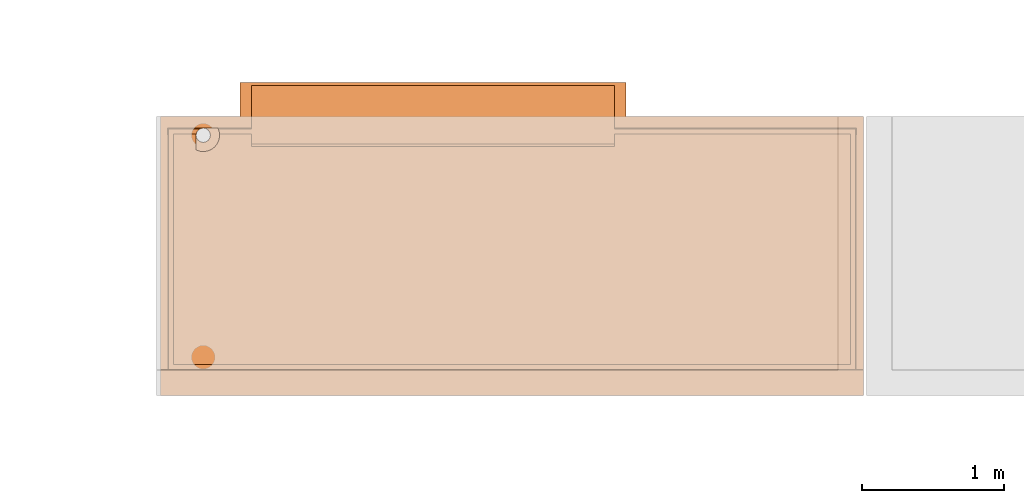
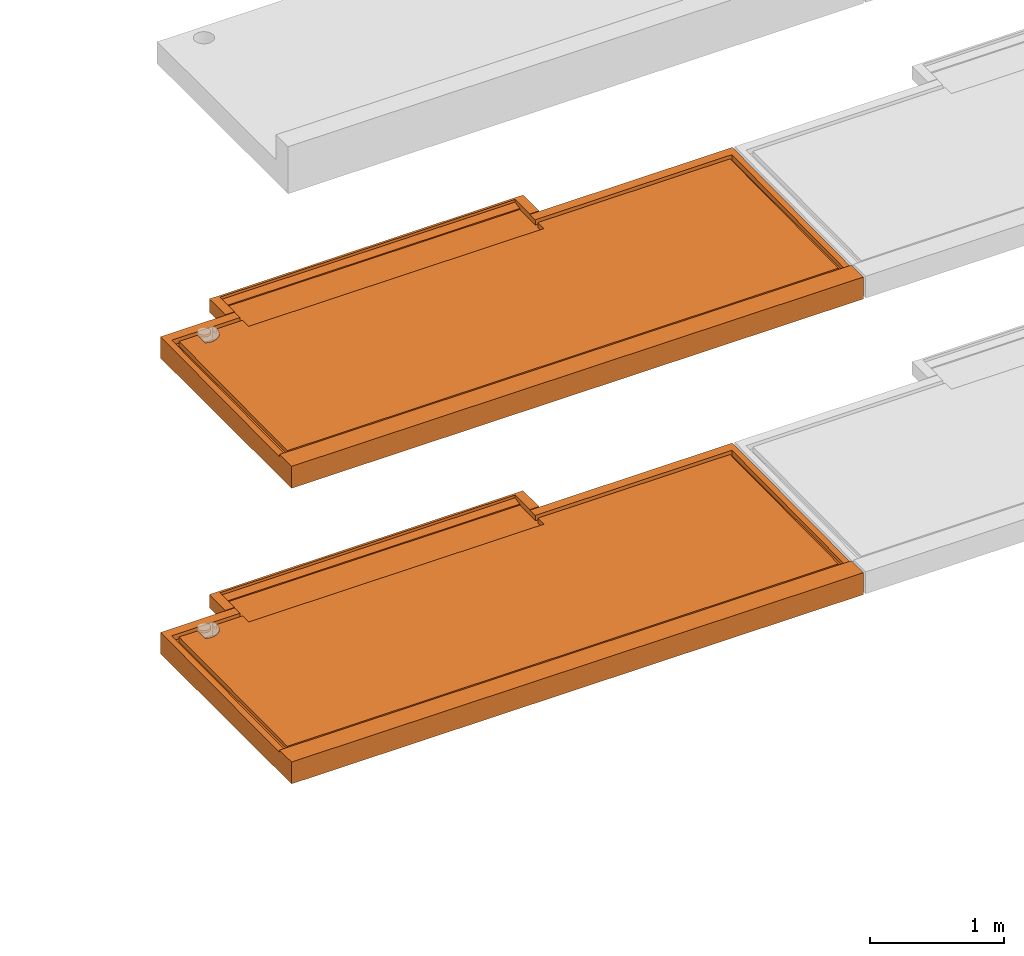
# One storey, part 6 of 31: 2 proxies, 2 elements without a shape of their own.
"""IFC2X3 building model written with IfcOpenShell, lengths in centimetres."""

from ifc_helpers import new_model, entity, si_unit, converted_unit, derived_unit, direction, frame, origin, place, context, subcontext, project, spatial, faceted_brep, source, transform, mapped, material, type_object, type_shapes, element, aggregate, save


model = new_model("IFC2X3")

# Units and contexts
model_context = context("Model", 3, precision=0.001, world=origin(), true_north=direction((6.12303176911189e-17, 1.0)))
body_context = subcontext(model_context, "Body", "Model", "MODEL_VIEW")
ifc_project = project(units=[si_unit("LENGTHUNIT", "METRE", prefix="CENTI"), si_unit("AREAUNIT", "SQUARE_METRE"), si_unit("VOLUMEUNIT", "CUBIC_METRE"), converted_unit("PLANEANGLEUNIT", "DEGREE", entity("IfcRatioMeasure", 0.0174532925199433), si_unit("PLANEANGLEUNIT", "RADIAN"), dimensions=[0, 0, 0, 0, 0, 0, 0]), si_unit("MASSUNIT", "GRAM", prefix="KILO"), derived_unit("MASSDENSITYUNIT", [(si_unit("MASSUNIT", "GRAM", prefix="KILO"), 1), (si_unit("LENGTHUNIT", "METRE"), -3)]), si_unit("TIMEUNIT", "SECOND"), si_unit("FREQUENCYUNIT", "HERTZ"), si_unit("THERMODYNAMICTEMPERATUREUNIT", "DEGREE_CELSIUS"), derived_unit("THERMALTRANSMITTANCEUNIT", [(si_unit("MASSUNIT", "GRAM", prefix="KILO"), 1), (si_unit("THERMODYNAMICTEMPERATUREUNIT", "KELVIN"), -1), (si_unit("TIMEUNIT", "SECOND"), -3)]), derived_unit("VOLUMETRICFLOWRATEUNIT", [(si_unit("LENGTHUNIT", "METRE"), 3), (si_unit("TIMEUNIT", "SECOND"), -1)]), si_unit("ELECTRICCURRENTUNIT", "AMPERE"), si_unit("ELECTRICVOLTAGEUNIT", "VOLT"), si_unit("POWERUNIT", "WATT"), si_unit("FORCEUNIT", "NEWTON"), si_unit("ILLUMINANCEUNIT", "LUX"), si_unit("LUMINOUSFLUXUNIT", "LUMEN"), si_unit("LUMINOUSINTENSITYUNIT", "CANDELA"), derived_unit("USERDEFINED", [(si_unit("MASSUNIT", "GRAM", prefix="KILO"), -1), (si_unit("LENGTHUNIT", "METRE"), -2), (si_unit("TIMEUNIT", "SECOND"), 3), (si_unit("LUMINOUSFLUXUNIT", "LUMEN"), 1)]), derived_unit("LINEARVELOCITYUNIT", [(si_unit("LENGTHUNIT", "METRE"), 1), (si_unit("TIMEUNIT", "SECOND"), -1)]), si_unit("PRESSUREUNIT", "PASCAL"), derived_unit("USERDEFINED", [(si_unit("LENGTHUNIT", "METRE"), -2), (si_unit("MASSUNIT", "GRAM", prefix="KILO"), 1), (si_unit("TIMEUNIT", "SECOND"), -2)])], contexts=[model_context])

# Site, building, storey
site_placement = place(None, origin())
site = spatial("IfcSite", under=ifc_project, at=site_placement, Name="Default", CompositionType="ELEMENT")
building_placement = place(site_placement, origin())
building = spatial("IfcBuilding", under=site, at=building_placement, Name="CAGE 03", CompositionType="ELEMENT")
storey_placement = place(building_placement, frame((0.0, 0.0, -400.0)))
storey = spatial("IfcBuildingStorey", under=building, at=storey_placement, Name="±0.00", CompositionType="ELEMENT", Elevation=-400.0)

# Assembly, proxy
assembly_1_placement = place(storey_placement, origin())
assembly_1 = element("IfcElementAssembly", 1, at=assembly_1_placement, inside=storey, Name="Assemblage Modèles génériques:BALCON TYPE 01", ObjectType="Assemblage Modèles génériques:BALCON TYPE 01", AssemblyPlace="NOTDEFINED", PredefinedType="USERDEFINED")
ifc_material = material(Name="Béton, panneaux préfa 30/37")
building_element_proxy_type_1 = type_object("IfcBuildingElementProxyType", Name="balcon préfa type 01", PredefinedType="NOTDEFINED", material=ifc_material)
shared_shape_1 = source(origin(), body_context, "Body", "Brep", [
    faceted_brep([(5.4374433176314, 187.562556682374, 15.0), (5.43744331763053, 18.437443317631, 15.0), (488.562556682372, 18.4374433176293, 15.0), (488.562556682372, 187.562556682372, 15.0), (319.0, 187.562556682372, 15.0), (319.0, 211.0, 15.0), (64.0, 211.0, 15.0), (64.0, 187.562556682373, 15.0), (40.5561866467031, 187.562556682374, 15.0), (41.1495236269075, 185.817467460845, 15.0), (41.4564392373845, 184.0, 15.0), (64.0, 184.0, 15.0), (64.0, 177.0, 15.0), (319.0, 177.0, 15.0), (319.0, 184.0, 15.0), (485.0, 184.0, 15.0), (485.0, 22.0, 15.0), (9.0, 22.0, 15.0), (9.0, 184.0, 15.0), (25.1010205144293, 184.0, 15.0), (25.4727634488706, 185.122293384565, 15.0), (26.0976215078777, 186.125930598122, 15.0), (26.9406592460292, 186.954798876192, 15.0), (27.954742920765, 187.562556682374, 15.0), (56.0, 196.0, 20.0), (64.0, 196.0, 20.0), (64.0, 218.0, 20.0), (319.0, 218.0, 20.0), (319.0, 196.0, 20.0), (327.0, 196.0, 20.0), (327.0, 212.0, 20.0), (327.0, 220.0, 20.0), (56.0, 220.0, 20.0), (56.0, 212.0, 20.0), (494.0, 0.0, 20.0), (494.0, 18.0, 20.0), (0.0, 18.0, 20.0), (0.0, 0.0, 20.0), (56.0, 220.0, 8.0), (327.0, 220.0, 8.0), (4.0, 194.0, 0.0), (26.4644660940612, 186.535533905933, 0.0), (25.669872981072, 185.5, 0.0), (4.0, 196.0, 0.0), (25.170370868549, 184.294095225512, 0.0), (25.0, 183.0, 0.0), (25.1703708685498, 181.705904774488, 0.0), (25.6698729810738, 180.500000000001, 0.0), (26.4644660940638, 179.464466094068, 0.0), (4.0, 4.0, 0.0), (27.4999999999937, 187.330127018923, 0.0), (28.705904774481, 187.829629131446, 0.0), (30.0, 188.0, 0.0), (31.2940952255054, 187.829629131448, 0.0), (490.0, 196.0, 0.0), (32.4999999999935, 187.330127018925, 0.0), (33.535533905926, 186.535533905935, 0.0), (34.3301270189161, 185.500000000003, 0.0), (34.8296291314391, 184.294095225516, 0.0), (35.0, 183.0, 0.0), (490.0, 194.0, 0.0), (34.8296291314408, 181.705904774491, 0.0), (490.0, 4.0, 0.0), (34.3301270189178, 180.500000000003, 0.0), (27.4999999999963, 178.669872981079, 0.0), (28.7059047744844, 178.170370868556, 0.0), (30.0, 178.0, 0.0), (31.2940952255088, 178.170370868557, 0.0), (32.4999999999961, 178.669872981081, 0.0), (33.5355339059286, 179.464466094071, 0.0), (0.0, 196.0, 0.0), (3.0, 196.0, 0.0), (3.0, 194.0, 0.0), (3.0, 3.0, 0.0), (491.0, 3.0, 0.0), (491.0, 194.0, 0.0), (491.0, 196.0, 0.0), (494.0, 196.0, 0.0), (494.0, 194.0, 0.0), (494.0, 0.0, 0.0), (0.0, 0.0, 0.0), (0.0, 194.0, 0.0), (5.04116008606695, 187.958839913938, 19.5295380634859), (29.3597604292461, 187.958839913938, 19.5295380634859), (29.6792193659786, 187.989699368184, 19.529846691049), (30.0, 188.0, 19.5299497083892), (40.3561575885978, 188.0, 19.5299497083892), (40.3660638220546, 187.979429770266, 19.5297439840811), (40.3759291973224, 187.958839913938, 19.5295380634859), (64.0, 187.958839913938, 19.5295380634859), (64.0, 194.0, 19.5899561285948), (64.0, 196.0, 19.6099582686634), (56.0, 196.0, 19.6099582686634), (0.0, 196.0, 19.6099582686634), (0.0, 194.0, 19.5899561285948), (0.0, 18.1897047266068, 17.83166505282), (5.18970472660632, 18.1897047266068, 17.83166505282), (9.0, 22.0, 17.8697720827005), (485.0, 22.0, 17.8697720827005), (485.0, 184.0, 19.4899454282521), (319.0, 184.0, 19.4899454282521), (319.0, 175.001802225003, 19.3999538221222), (64.0, 175.001802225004, 19.3999538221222), (64.0, 184.0, 19.4899454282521), (41.4564392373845, 184.0, 19.4899454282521), (41.375773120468, 181.314240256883, 19.463084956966), (40.6740790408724, 178.72050976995, 19.4371448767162), (39.3896639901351, 176.360405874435, 19.413541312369), (37.5926469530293, 174.362771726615, 19.3935628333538), (35.3811309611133, 172.836662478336, 19.3783001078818), (32.875847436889, 171.865391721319, 19.3685863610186), (30.2135652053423, 171.501983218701, 19.3649518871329), (27.53962398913, 171.766276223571, 19.3675950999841), (25.0, 172.643842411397, 19.3763717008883), (25.0, 183.0, 19.4799443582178), (25.0253192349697, 183.502544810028, 19.4849703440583), (25.1010205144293, 184.0, 19.4899454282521), (9.0, 184.0, 19.4899454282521), (319.0, 194.0, 19.5899561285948), (319.0, 187.958839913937, 19.5295380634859), (488.958839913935, 187.958839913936, 19.5295380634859), (488.810295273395, 18.189704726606, 17.83166505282), (494.0, 18.189704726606, 17.83166505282), (494.0, 194.0, 19.5899561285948), (494.0, 196.0, 19.6099582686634), (327.0, 196.0, 19.6099582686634), (319.0, 196.0, 19.6099582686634), (319.0, 211.0, 15.9713250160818), (319.0, 218.0, 17.4999999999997), (319.0, 177.0, 16.9198129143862), (319.0, 175.026803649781, 16.9000788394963), (28.2941522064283, 187.700008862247, 16.5710856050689), (28.6427110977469, 187.812251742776, 17.8540276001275), (28.9985500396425, 187.898683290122, 18.8419447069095), (40.3874297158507, 187.93417884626, 19.2476607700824), (40.3989302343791, 187.909517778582, 18.965783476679), (40.421931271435, 187.860195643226, 18.4020288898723), (40.4679333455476, 187.761551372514, 17.2745197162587), (40.5120599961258, 187.662054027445, 16.1372598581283), (3.0, 3.0, 1.0), (491.0, 3.0, 1.0), (4.0, 4.0, 1.46630765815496), (490.0, 4.0, 1.46630765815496), (64.0, 218.0, 17.4999999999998), (56.0, 212.0, 8.0), (327.0, 212.0, 8.0), (327.0, 196.0, 8.0), (56.0, 196.0, 8.0), (491.0, 196.0, 1.0), (490.0, 196.0, 1.46630765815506), (4.0, 196.0, 1.46630765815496), (3.0, 196.0, 1.0), (64.0, 175.026803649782, 16.9000788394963), (64.0, 177.0, 16.9198129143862), (64.0, 211.0, 15.9713250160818), (491.0, 194.0, 1.0), (490.0, 194.0, 1.46630765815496), (3.0, 194.0, 1.0), (4.0, 194.0, 1.46630765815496), (27.6842282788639, 171.735578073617, 7.69999999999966), (30.5090668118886, 171.511272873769, 7.69999999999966), (33.3029955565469, 171.984546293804, 7.69999999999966), (35.8963712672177, 173.126661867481, 7.69999999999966), (38.1317279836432, 174.868272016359, 7.69999999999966), (39.8733381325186, 177.103628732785, 7.69999999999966), (41.0154537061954, 179.697004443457, 7.69999999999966), (41.4887271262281, 182.490933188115, 7.69999999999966), (41.2644219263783, 185.315771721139, 7.69999999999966), (40.3561575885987, 188.0, 7.69999999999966), (30.0, 188.0, 7.69999999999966), (31.2940952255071, 187.829629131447, 7.69999999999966), (32.4999999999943, 187.330127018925, 7.69999999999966), (33.5355339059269, 186.535533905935, 7.69999999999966), (34.3301270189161, 185.500000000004, 7.69999999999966), (34.82962913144, 184.294095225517, 7.69999999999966), (35.0, 183.0, 7.69999999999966), (34.8296291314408, 181.705904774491, 7.69999999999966), (34.3301270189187, 180.500000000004, 7.69999999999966), (33.5355339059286, 179.464466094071, 7.69999999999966), (32.4999999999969, 178.669872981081, 7.69999999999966), (31.2940952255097, 178.170370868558, 7.69999999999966), (30.0, 178.0, 7.69999999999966), (28.7059047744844, 178.170370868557, 7.69999999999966), (27.4999999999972, 178.669872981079, 7.69999999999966), (26.4644660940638, 179.464466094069, 7.69999999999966), (25.6698729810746, 180.500000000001, 7.69999999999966), (25.1703708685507, 181.705904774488, 7.69999999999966), (25.0, 183.0, 7.69999999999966), (25.0, 172.643842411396, 7.69999999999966), (40.3561575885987, 188.0, 15.0937185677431), (40.3561575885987, 188.0, 16.5724622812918), (40.3561575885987, 188.0, 18.0512059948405), (40.3561575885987, 188.0, 13.6149748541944), (40.3561575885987, 188.0, 18.7905778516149), (40.3561575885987, 188.0, 19.1602637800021)], [[[0, 1, 2, 3, 4, 5, 6, 7, 8, 9, 10, 11, 12, 13, 14, 15, 16, 17, 18, 19, 20, 21, 22, 23]], [[24, 25, 26, 27, 28, 29, 30, 31, 32, 33]], [[34, 35, 36, 37]], [[38, 32, 31, 39]], [[40, 41, 42]], [[41, 40, 43]], [[40, 42, 44]], [[44, 45, 40]], [[46, 40, 45]], [[40, 46, 47]], [[47, 48, 40]], [[48, 49, 40]], [[50, 41, 43]], [[51, 50, 43]], [[52, 51, 43]], [[43, 53, 52]], [[53, 43, 54]], [[55, 53, 54]], [[56, 55, 54]], [[54, 57, 56]], [[58, 57, 54]], [[58, 54, 59]], [[54, 60, 59]], [[59, 60, 61]], [[60, 62, 61]], [[62, 49, 63]], [[62, 63, 61]], [[48, 64, 49]], [[64, 65, 49]], [[49, 65, 66]], [[67, 49, 66]], [[68, 49, 67]], [[49, 68, 69]], [[63, 49, 69]], [[70, 71, 72, 73, 74, 75, 76, 77, 78, 79, 80, 81]], [[37, 80, 79, 34]], [[82, 83, 84, 85, 86, 87, 88, 89, 90, 91, 92, 93, 94, 95, 96]], [[97, 98, 99, 100, 101, 102, 103, 104, 105, 106, 107, 108, 109, 110, 111, 112, 113, 114, 115, 116, 117]], [[118, 119, 120, 121, 122, 123, 124, 125, 126]], [[78, 77, 124, 123, 122, 35, 34, 79]], [[121, 2, 1, 96, 95, 36, 35, 122]], [[127, 5, 4, 119, 118, 126, 28, 27, 128]], [[100, 14, 13, 129, 130, 101]], [[3, 120, 119, 4]], [[23, 131, 132, 133, 83, 82, 0]], [[89, 88, 134, 135, 136, 137, 138, 8, 7]], [[98, 16, 15, 99]], [[121, 120, 3, 2]], [[139, 140, 74, 73]], [[141, 142, 140, 139]], [[141, 49, 62, 142]], [[26, 143, 128, 27]], [[144, 38, 39, 145, 146, 147]], [[93, 92, 147, 146, 125, 124, 77, 76, 148, 149, 54, 43, 150, 151, 71, 70]], [[152, 102, 101, 130]], [[153, 152, 130, 129]], [[12, 153, 129, 13]], [[80, 37, 36, 95, 94, 93, 70, 81]], [[143, 26, 25, 91, 90, 89, 7, 6, 154]], [[103, 102, 152, 153, 12, 11]], [[15, 14, 100, 99]], [[19, 18, 117, 116]], [[103, 11, 10, 104]], [[17, 16, 98, 97]], [[143, 154, 127, 128]], [[154, 6, 5, 127]], [[29, 28, 126, 125]], [[25, 24, 92, 91]], [[33, 32, 38, 144, 147, 92, 24]], [[75, 74, 140, 155, 148, 76]], [[156, 142, 62, 60, 54, 149]], [[155, 140, 142, 156, 149, 148]], [[73, 72, 71, 151, 157, 139]], [[40, 49, 141, 158, 150, 43]], [[141, 139, 157, 151, 150, 158]], [[18, 17, 97, 117]], [[0, 82, 96, 1]], [[30, 29, 125, 146, 145, 39, 31]], [[159, 160, 161, 162, 163, 164, 165, 166, 167, 168, 169, 170, 171, 172, 173, 174, 175, 176, 177, 178, 179, 180, 181, 182, 183, 184, 185, 186, 187, 188]], [[187, 114, 113, 188]], [[159, 188, 112]], [[159, 111, 160]], [[108, 163, 162]], [[162, 161, 109]], [[161, 160, 110]], [[164, 163, 107]], [[8, 138, 189]], [[188, 113, 112]], [[159, 112, 111]], [[189, 138, 190]], [[191, 190, 137]], [[161, 110, 109]], [[138, 137, 190]], [[163, 108, 107]], [[108, 162, 109]], [[189, 192, 8]], [[110, 160, 111]], [[88, 87, 134]], [[107, 106, 164]], [[166, 165, 105]], [[167, 166, 10]], [[10, 166, 105]], [[9, 168, 167]], [[193, 191, 136]], [[192, 168, 9]], [[192, 9, 8]], [[10, 9, 167]], [[194, 134, 87]], [[105, 165, 106]], [[104, 10, 105]], [[87, 86, 194]], [[136, 191, 137]], [[136, 135, 193]], [[135, 134, 194]], [[194, 193, 135]], [[164, 106, 165]], [[85, 169, 168, 192, 189, 190, 191, 193, 194, 86]], [[47, 46, 186, 185]], [[47, 185, 184, 48]], [[65, 64, 183, 182]], [[184, 183, 64, 48]], [[66, 65, 182, 181]], [[45, 187, 186, 46]], [[68, 67, 180, 179]], [[68, 179, 178, 69]], [[61, 63, 177, 176]], [[178, 177, 63, 69]], [[59, 61, 176, 175]], [[181, 180, 67, 66]], [[58, 174, 173, 57]], [[59, 175, 174, 58]], [[171, 170, 53, 55]], [[55, 56, 172, 171]], [[56, 57, 173, 172]], [[52, 53, 170, 169]], [[85, 84, 169]], [[83, 169, 84]], [[133, 169, 83]], [[51, 52, 169]], [[23, 50, 51]], [[50, 23, 22]], [[22, 41, 50]], [[131, 23, 51]], [[187, 45, 44]], [[42, 41, 21]], [[42, 20, 44]], [[22, 21, 41]], [[44, 19, 187]], [[132, 51, 133]], [[131, 51, 132]], [[42, 21, 20]], [[116, 115, 19]], [[115, 187, 19]], [[115, 114, 187]], [[20, 19, 44]], [[169, 133, 51]]]),
])
type_shapes(building_element_proxy_type_1, [shared_shape_1])
proxy_1_placement = place(assembly_1_placement, frame((4879.36582014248, 4474.6606660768, 990.0)))
proxy_1 = element("IfcBuildingElementProxy", 2, at=proxy_1_placement, type_object=building_element_proxy_type_1, material=ifc_material, Name="BY_STR_Balcon_préfa_01:balcon préfa type 01", ObjectType="balcon préfa type 01", context=body_context, shape_type="MappedRepresentation", body=[
    mapped(shared_shape_1, transform((0.0, 0.0, 0.0), scale=1.0)),
])
aggregate(assembly_1, [proxy_1])

assembly_2_placement = place(storey_placement, origin())
assembly_2 = element("IfcElementAssembly", 3, at=assembly_2_placement, inside=storey, Name="Assemblage Modèles génériques:BALCON TYPE 01", ObjectType="Assemblage Modèles génériques:BALCON TYPE 01", AssemblyPlace="NOTDEFINED", PredefinedType="USERDEFINED")
building_element_proxy_type_2 = type_object("IfcBuildingElementProxyType", Name="balcon préfa type 01", PredefinedType="NOTDEFINED", material=ifc_material)
shared_shape_2 = source(origin(), body_context, "Body", "Brep", [
    faceted_brep([(5.4374433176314, 187.562556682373, 15.0), (5.43744331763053, 18.4374433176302, 15.0), (488.562556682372, 18.4374433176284, 15.0), (488.562556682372, 187.562556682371, 15.0), (319.0, 187.562556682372, 15.0), (319.0, 211.0, 15.0), (64.0, 211.0, 15.0), (64.0, 187.562556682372, 15.0), (40.5561866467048, 187.562556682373, 15.0), (41.1495236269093, 185.817467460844, 15.0), (41.4564392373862, 184.0, 15.0), (64.0, 184.0, 15.0), (64.0, 177.0, 15.0), (319.0, 177.0, 15.0), (319.0, 184.0, 15.0), (485.0, 184.0, 15.0), (485.0, 22.0, 15.0), (9.0, 22.0, 15.0), (9.0, 184.0, 15.0), (25.101020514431, 184.0, 15.0), (25.4727634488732, 185.122293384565, 15.0), (26.0976215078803, 186.125930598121, 15.0), (26.9406592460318, 186.954798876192, 15.0), (27.9547429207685, 187.562556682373, 15.0), (56.0, 196.0, 20.0), (64.0, 196.0, 20.0), (64.0, 218.0, 20.0), (319.0, 218.0, 20.0), (319.0, 196.0, 20.0), (327.0, 196.0, 20.0), (327.0, 212.0, 20.0), (327.0, 220.0, 20.0), (56.0, 220.0, 20.0), (56.0, 212.0, 20.0), (494.0, 0.0, 20.0), (494.0, 18.0, 20.0), (0.0, 18.0, 20.0), (0.0, 0.0, 20.0), (56.0, 220.0, 8.0), (327.0, 220.0, 8.0), (4.0, 196.0, 0.0), (25.6698729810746, 185.499999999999, 0.0), (25.1703708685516, 184.294095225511, 0.0), (26.4644660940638, 186.535533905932, 0.0), (25.0, 183.0, 0.0), (27.4999999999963, 187.330127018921, 0.0), (34.0, 196.0, 0.0), (25.1703708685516, 181.705904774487, 0.0), (25.6698729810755, 180.5, 0.0), (26.4644660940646, 179.464466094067, 0.0), (4.0, 4.0, 0.0), (28.7059047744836, 187.829629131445, 0.0), (30.0, 188.0, 0.0), (31.294095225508, 187.829629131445, 0.0), (32.4999999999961, 187.330127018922, 0.0), (33.5355339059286, 186.535533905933, 0.0), (34.3301270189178, 185.5, 0.0), (34.8296291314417, 184.294095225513, 0.0), (35.0, 183.0, 0.0), (454.0, 196.0, 0.0), (34.8296291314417, 181.705904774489, 0.0), (34.3301270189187, 180.500000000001, 0.0), (490.0, 4.0, 0.0), (490.0, 194.0, 0.0), (490.0, 196.0, 0.0), (27.4999999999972, 178.669872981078, 0.0), (28.7059047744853, 178.170370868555, 0.0), (30.0, 178.0, 0.0), (31.2940952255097, 178.170370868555, 0.0), (33.5355339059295, 179.464466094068, 0.0), (32.4999999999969, 178.669872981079, 0.0), (0.0, 196.0, 0.0), (3.0, 196.0, 0.0), (3.0, 3.0, 0.0), (491.0, 3.0, 0.0), (491.0, 194.0, 0.0), (491.0, 196.0, 0.0), (494.0, 196.0, 0.0), (494.0, 194.0, 0.0), (494.0, 0.0, 0.0), (0.0, 0.0, 0.0), (5.04116008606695, 187.958839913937, 19.5295380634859), (29.3597604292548, 187.958839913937, 19.5295380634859), (29.6792193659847, 187.989699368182, 19.5298466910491), (30.0, 188.0, 19.5299497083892), (40.3561575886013, 188.0, 19.5299497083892), (40.3660638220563, 187.979429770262, 19.5297439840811), (40.3759291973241, 187.958839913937, 19.5295380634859), (64.0, 187.958839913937, 19.5295380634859), (64.0, 194.0, 19.5899561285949), (64.0, 196.0, 19.6099582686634), (56.0, 196.0, 19.6099582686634), (34.0, 196.0, 19.6099582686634), (0.0, 196.0, 19.6099582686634), (0.0, 18.189704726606, 17.83166505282), (5.18970472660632, 18.189704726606, 17.83166505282), (9.0, 22.0, 17.8697720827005), (485.0, 22.0, 17.8697720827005), (485.0, 184.0, 19.4899454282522), (319.0, 184.0, 19.4899454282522), (319.0, 175.001802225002, 19.3999538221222), (64.0, 175.001802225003, 19.3999538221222), (64.0, 184.0, 19.4899454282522), (41.4564392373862, 184.0, 19.4899454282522), (41.3757731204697, 181.314240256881, 19.463084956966), (40.6740790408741, 178.720509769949, 19.4371448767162), (39.3896639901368, 176.360405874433, 19.413541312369), (37.5926469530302, 174.362771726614, 19.3935628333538), (35.3811309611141, 172.836662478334, 19.3783001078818), (32.875847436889, 171.865391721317, 19.3685863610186), (30.2135652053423, 171.501983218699, 19.3649518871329), (27.5396239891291, 171.766276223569, 19.3675950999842), (25.0, 172.643842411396, 19.3763717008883), (25.0, 183.0, 19.4799443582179), (25.0253192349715, 183.502544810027, 19.4849703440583), (25.101020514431, 184.0, 19.4899454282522), (9.0, 184.0, 19.4899454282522), (319.0, 194.0, 19.5899561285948), (319.0, 187.958839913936, 19.5295380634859), (488.958839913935, 187.958839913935, 19.5295380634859), (488.810295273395, 18.1897047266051, 17.83166505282), (494.0, 18.1897047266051, 17.83166505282), (494.0, 194.0, 19.5899561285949), (494.0, 196.0, 19.6099582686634), (454.0, 196.0, 19.6099582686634), (327.0, 196.0, 19.6099582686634), (319.0, 196.0, 19.6099582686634), (319.0, 211.0, 15.9713250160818), (319.0, 218.0, 17.4999999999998), (319.0, 177.0, 16.9198129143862), (319.0, 175.02680364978, 16.9000788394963), (28.2941522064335, 187.700008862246, 16.5710856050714), (28.6427110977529, 187.812251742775, 17.8540276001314), (28.9985500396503, 187.898683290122, 18.8419447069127), (40.3874297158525, 187.934178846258, 19.2476607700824), (40.39893023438, 187.909517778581, 18.9657834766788), (40.4219312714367, 187.860195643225, 18.4020288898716), (40.4679333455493, 187.761551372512, 17.2745197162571), (40.5120599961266, 187.662054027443, 16.1372598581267), (3.0, 3.0, 1.0), (491.0, 3.0, 1.0), (4.0, 4.0, 1.46630765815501), (490.0, 4.0, 1.46630765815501), (64.0, 218.0, 17.4999999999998), (56.0, 212.0, 8.0), (327.0, 212.0, 8.0), (327.0, 196.0, 8.0), (56.0, 196.0, 8.0), (491.0, 196.0, 1.0), (490.0, 196.0, 1.46630765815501), (4.0, 196.0, 1.46630765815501), (3.0, 196.0, 1.0), (64.0, 175.026803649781, 16.9000788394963), (64.0, 177.0, 16.9198129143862), (64.0, 211.0, 15.9713250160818), (491.0, 194.0, 1.0), (490.0, 194.0, 1.46630765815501), (27.6842282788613, 171.735578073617, 7.69999999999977), (30.5090668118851, 171.511272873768, 7.69999999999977), (33.3029955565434, 171.984546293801, 7.69999999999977), (35.8963712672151, 173.126661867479, 7.69999999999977), (38.1317279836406, 174.868272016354, 7.69999999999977), (39.8733381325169, 177.103628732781, 7.69999999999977), (41.0154537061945, 179.697004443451, 7.69999999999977), (41.4887271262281, 182.49093318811, 7.69999999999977), (41.2644219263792, 185.315771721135, 7.69999999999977), (40.3561575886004, 188.0, 7.69999999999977), (30.0, 188.0, 7.69999999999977), (31.294095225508, 187.829629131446, 7.69999999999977), (32.4999999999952, 187.330127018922, 7.69999999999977), (33.5355339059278, 186.535533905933, 7.69999999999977), (34.3301270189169, 185.5, 7.69999999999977), (34.8296291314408, 184.294095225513, 7.69999999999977), (35.0, 183.0, 7.69999999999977), (34.82962913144, 181.705904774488, 7.69999999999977), (34.3301270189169, 180.500000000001, 7.69999999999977), (33.5355339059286, 179.464466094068, 7.69999999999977), (32.4999999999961, 178.669872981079, 7.69999999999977), (31.294095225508, 178.170370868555, 7.69999999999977), (30.0, 178.0, 7.69999999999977), (28.7059047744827, 178.170370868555, 7.69999999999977), (27.4999999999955, 178.669872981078, 7.69999999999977), (26.4644660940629, 179.464466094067, 7.69999999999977), (25.6698729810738, 180.5, 7.69999999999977), (25.1703708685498, 181.705904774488, 7.69999999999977), (25.0, 183.0, 7.69999999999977), (25.0, 172.643842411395, 7.69999999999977), (40.3561575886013, 188.0, 15.0937185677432), (40.3561575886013, 188.0, 16.5724622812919), (40.3561575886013, 188.0, 18.0512059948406), (40.3561575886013, 188.0, 13.6149748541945), (40.3561575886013, 188.0, 18.7905778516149), (40.3561575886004, 188.0, 19.1602637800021)], [[[0, 1, 2, 3, 4, 5, 6, 7, 8, 9, 10, 11, 12, 13, 14, 15, 16, 17, 18, 19, 20, 21, 22, 23]], [[24, 25, 26, 27, 28, 29, 30, 31, 32, 33]], [[34, 35, 36, 37]], [[38, 32, 31, 39]], [[40, 41, 42]], [[41, 40, 43]], [[40, 42, 44]], [[45, 43, 40]], [[46, 45, 40]], [[47, 40, 44]], [[48, 40, 47]], [[40, 48, 49]], [[40, 49, 50]], [[46, 51, 45]], [[46, 52, 51]], [[46, 53, 52]], [[53, 46, 54]], [[55, 54, 46]], [[46, 56, 55]], [[46, 57, 56]], [[57, 46, 58]], [[46, 59, 58]], [[60, 58, 59]], [[59, 61, 60]], [[61, 59, 62]], [[62, 59, 63]], [[59, 64, 63]], [[61, 62, 50]], [[49, 65, 50]], [[65, 66, 50]], [[66, 67, 50]], [[50, 67, 68]], [[50, 69, 61]], [[69, 50, 70]], [[70, 50, 68]], [[71, 72, 73, 74, 75, 76, 77, 78, 79, 80]], [[37, 80, 79, 34]], [[81, 82, 83, 84, 85, 86, 87, 88, 89, 90, 91, 92, 93, 94, 95]], [[96, 97, 98, 99, 100, 101, 102, 103, 104, 105, 106, 107, 108, 109, 110, 111, 112, 113, 114, 115, 116]], [[117, 118, 119, 120, 121, 122, 123, 124, 125, 126]], [[78, 77, 123, 122, 121, 35, 34, 79]], [[120, 2, 1, 95, 94, 36, 35, 121]], [[127, 5, 4, 118, 117, 126, 28, 27, 128]], [[99, 14, 13, 129, 130, 100]], [[3, 119, 118, 4]], [[23, 131, 132, 133, 82, 81, 0]], [[88, 87, 134, 135, 136, 137, 138, 8, 7]], [[97, 16, 15, 98]], [[120, 119, 3, 2]], [[139, 140, 74, 73]], [[141, 142, 140, 139]], [[141, 50, 62, 142]], [[26, 143, 128, 27]], [[144, 38, 39, 145, 146, 147]], [[93, 92, 91, 147, 146, 125, 124, 123, 77, 76, 148, 149, 64, 59, 46, 40, 150, 151, 72, 71]], [[152, 101, 100, 130]], [[153, 152, 130, 129]], [[12, 153, 129, 13]], [[71, 80, 37, 36, 94, 93]], [[143, 26, 25, 90, 89, 88, 7, 6, 154]], [[102, 101, 152, 153, 12, 11]], [[15, 14, 99, 98]], [[19, 18, 116, 115]], [[102, 11, 10, 103]], [[17, 16, 97, 96]], [[143, 154, 127, 128]], [[154, 6, 5, 127]], [[29, 28, 126, 125]], [[25, 24, 91, 90]], [[33, 32, 38, 144, 147, 91, 24]], [[75, 74, 140, 155, 148, 76]], [[156, 142, 62, 63, 64, 149]], [[155, 140, 142, 156, 149, 148]], [[72, 151, 139, 73]], [[150, 40, 50, 141]], [[151, 150, 141, 139]], [[18, 17, 96, 116]], [[0, 81, 95, 1]], [[30, 29, 125, 146, 145, 39, 31]], [[157, 158, 159, 160, 161, 162, 163, 164, 165, 166, 167, 168, 169, 170, 171, 172, 173, 174, 175, 176, 177, 178, 179, 180, 181, 182, 183, 184, 185, 186]], [[185, 113, 112, 186]], [[157, 186, 111]], [[157, 110, 158]], [[107, 161, 160]], [[160, 159, 108]], [[159, 158, 109]], [[162, 161, 106]], [[8, 138, 187]], [[186, 112, 111]], [[157, 111, 110]], [[187, 138, 188]], [[189, 188, 137]], [[159, 109, 108]], [[138, 137, 188]], [[161, 107, 106]], [[107, 160, 108]], [[187, 190, 8]], [[109, 158, 110]], [[87, 86, 134]], [[106, 105, 162]], [[164, 163, 104]], [[165, 164, 10]], [[10, 164, 104]], [[9, 166, 165]], [[191, 189, 136]], [[190, 166, 9]], [[190, 9, 8]], [[10, 9, 165]], [[192, 134, 86]], [[104, 163, 105]], [[103, 10, 104]], [[86, 85, 192]], [[136, 189, 137]], [[136, 135, 191]], [[135, 134, 192]], [[192, 191, 135]], [[162, 105, 163]], [[84, 167, 166, 190, 187, 188, 189, 191, 192, 85]], [[48, 47, 184, 183]], [[48, 183, 182, 49]], [[66, 65, 181, 180]], [[182, 181, 65, 49]], [[67, 66, 180, 179]], [[44, 185, 184, 47]], [[70, 68, 178, 177]], [[70, 177, 176, 69]], [[60, 61, 175, 174]], [[176, 175, 61, 69]], [[58, 60, 174, 173]], [[179, 178, 68, 67]], [[57, 172, 171, 56]], [[58, 173, 172, 57]], [[169, 168, 53, 54]], [[54, 55, 170, 169]], [[55, 56, 171, 170]], [[52, 53, 168, 167]], [[84, 83, 167]], [[82, 167, 83]], [[133, 167, 82]], [[51, 52, 167]], [[23, 45, 51]], [[45, 23, 22]], [[22, 43, 45]], [[131, 23, 51]], [[185, 44, 42]], [[41, 43, 21]], [[41, 20, 42]], [[22, 21, 43]], [[42, 19, 185]], [[132, 51, 133]], [[131, 51, 132]], [[41, 21, 20]], [[115, 114, 19]], [[114, 185, 19]], [[114, 113, 185]], [[20, 19, 42]], [[167, 133, 51]]]),
])
type_shapes(building_element_proxy_type_2, [shared_shape_2])
proxy_2_placement = place(assembly_2_placement, frame((4879.36582014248, 4474.66066607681, 720.0)))
proxy_2 = element("IfcBuildingElementProxy", 4, at=proxy_2_placement, type_object=building_element_proxy_type_2, material=ifc_material, Name="BY_STR_Balcon_préfa_01:balcon préfa type 01", ObjectType="balcon préfa type 01", context=body_context, shape_type="MappedRepresentation", body=[
    mapped(shared_shape_2, transform((0.0, 0.0, 0.0), scale=1.0)),
])
aggregate(assembly_2, [proxy_2])

save(model, "model.ifc")
